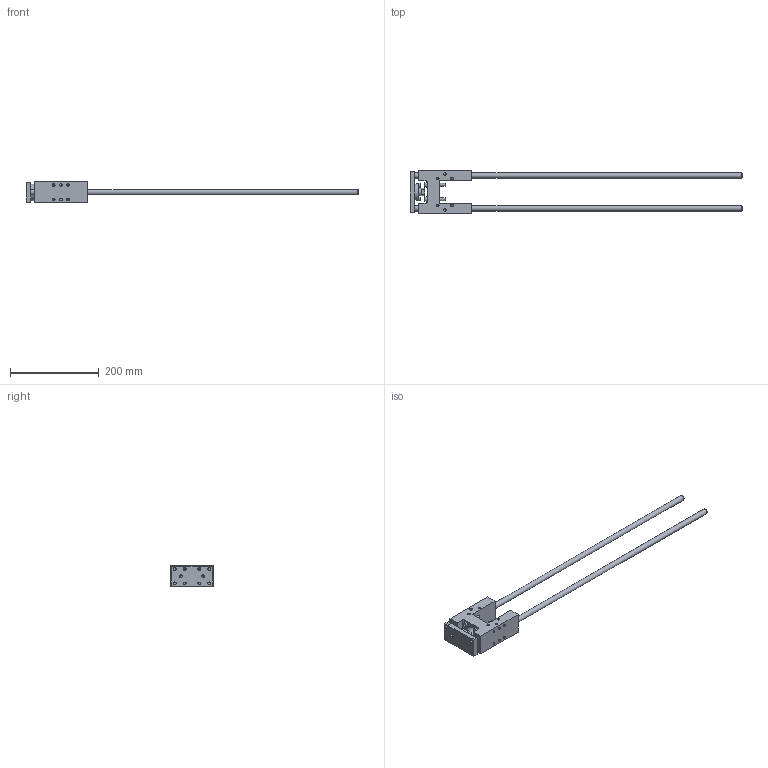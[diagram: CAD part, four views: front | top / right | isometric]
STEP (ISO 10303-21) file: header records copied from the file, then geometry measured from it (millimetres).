
FILE_DESCRIPTION( ( 'STEP AP214' ), '1' );
FILE_NAME( 'U:/Etudes/Top Solid/BIBLIO 3D AVM/TOP/PNEUMATIQUE/GUIDAGES/Type 32 (en H)/_Classique/324A9_30.step', '2005-05-27T11:35:08', ( ' ' ), ( ' ' ), 'XStep 1.0', ' ', ' ' );
FILE_SCHEMA( ( 'automotive_design' ) );
Length unit declared in the file: metre
Products named in the file (2): 1; 2
Bounding box: 747 x 97 x 49 mm (x, y, z)
Volume: 510298.9 mm3; surface area: 137332.9 mm2
Topology: 2 solids, 5 shells, 277 faces, 637 edges, 424 vertices
Faces by surface type: plane 132, cylinder 104, cone 41
Full cylindrical faces by diameter (mm): 4.918 x32, 5 x4, 5.5 x2, 6 x16, 6.2 x12, 6.5 x4, 6.6 x4, 8.5 x2, 8.647 x2, 10 x4, 11 x4, 12 x4, 16 x1, 18 x1, 22.8 x1, 25 x1, 30 x1, 38 x1
Entity records: 8975 total; most frequent: CARTESIAN_POINT 1247, DIRECTION 1198, ORIENTED_EDGE 832, AXIS2_PLACEMENT_3D 511, EDGE_LOOP 502, EDGE_CURVE 416, FACE_OUTER_BOUND 371, VERTEX_POINT 356
